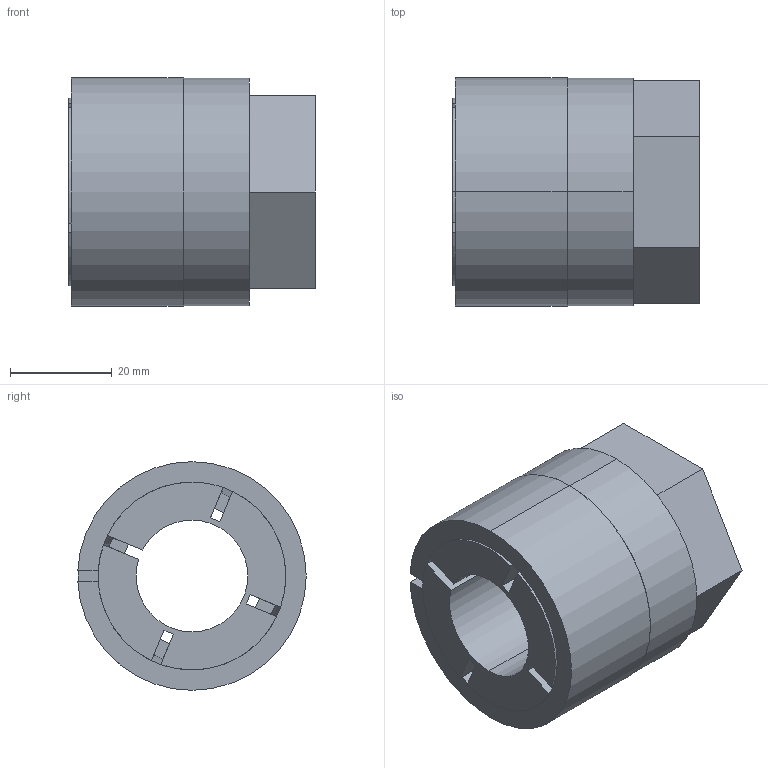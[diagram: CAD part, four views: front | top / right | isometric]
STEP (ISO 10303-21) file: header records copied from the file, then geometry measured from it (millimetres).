
FILE_DESCRIPTION (( 'STEP AP203' ), '1' );
FILE_NAME ('KBS 56 - 22 x 45.STEP', '2015-07-07T20:21:45', ( '' ), ( '' ), 'SwSTEP 2.0', 'SolidWorks 2010', '' );
FILE_SCHEMA (( 'CONFIG_CONTROL_DESIGN' ));
Length unit declared in the file: millimetre
Products named in the file (1): KBS 56 - 22 x 45
Bounding box: 48.5 x 44.98 x 45 mm (x, y, z)
Volume: 51812.2 mm3; surface area: 25200.9 mm2
Topology: 3 solids, 3 shells, 53 faces, 138 edges, 92 vertices
Faces by surface type: plane 30, cylinder 15, cone 8
Entity records: 1731 total; most frequent: CARTESIAN_POINT 320, DIRECTION 282, ORIENTED_EDGE 276, EDGE_CURVE 138, AXIS2_PLACEMENT_3D 100, VERTEX_POINT 92, VECTOR 82, LINE 82
